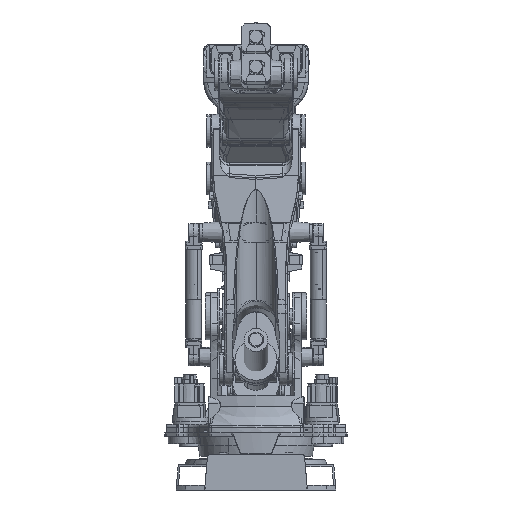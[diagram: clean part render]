
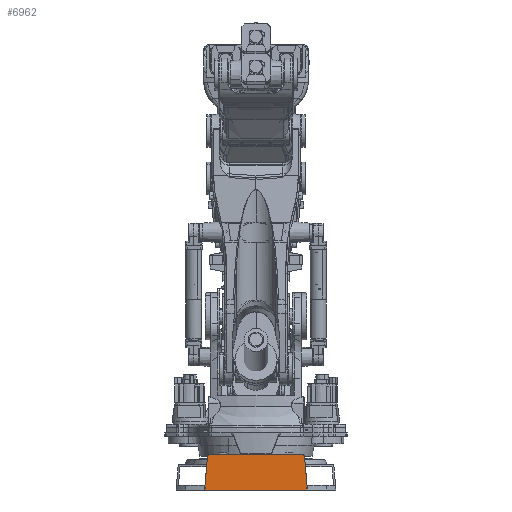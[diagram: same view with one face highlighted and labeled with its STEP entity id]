
A CAD part, front view. The second image highlights one B-rep face of the part: STEP entity #6962.
In plain terms, the highlighted planar face has unit normal (0, -1, 0).
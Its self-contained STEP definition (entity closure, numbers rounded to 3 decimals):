
#6700=CARTESIAN_POINT('Vertex',(366.836,-734.3,242.615)) ;
#6717=CARTESIAN_POINT('Vertex',(336.95,-734.3,270.)) ;
#6721=CARTESIAN_POINT('Control Point',(336.95,-734.3,270.)) ;
#6722=CARTESIAN_POINT('Control Point',(345.851,-734.3,270.)) ;
#6723=CARTESIAN_POINT('Control Point',(354.759,-734.3,266.707)) ;
#6724=CARTESIAN_POINT('Control Point',(362.003,-734.3,260.068)) ;
#6725=CARTESIAN_POINT('Control Point',(366.06,-734.3,251.482)) ;
#6726=CARTESIAN_POINT('Control Point',(366.836,-734.3,242.615)) ;
#6746=CARTESIAN_POINT('Vertex',(385.,-734.3,35.)) ;
#6754=CARTESIAN_POINT('Line Origine',(375.918,-734.3,138.807)) ;
#6865=CARTESIAN_POINT('Vertex',(-336.95,-734.3,270.)) ;
#6868=CARTESIAN_POINT('Line Origine',(0.,-734.3,270.)) ;
#6880=CARTESIAN_POINT('Axis2P3D Location',(0.,-734.3,0.)) ;
#6886=CARTESIAN_POINT('Control Point',(-366.836,-734.3,242.615)) ;
#6887=CARTESIAN_POINT('Control Point',(-366.579,-734.3,245.554)) ;
#6888=CARTESIAN_POINT('Control Point',(-365.961,-734.3,248.463)) ;
#6889=CARTESIAN_POINT('Control Point',(-364.986,-734.3,251.28)) ;
#6890=CARTESIAN_POINT('Control Point',(-362.362,-734.3,256.617)) ;
#6891=CARTESIAN_POINT('Control Point',(-358.523,-734.3,261.16)) ;
#6892=CARTESIAN_POINT('Control Point',(-356.332,-734.3,263.184)) ;
#6893=CARTESIAN_POINT('Control Point',(-351.499,-734.3,266.65)) ;
#6894=CARTESIAN_POINT('Control Point',(-345.97,-734.3,268.842)) ;
#6895=CARTESIAN_POINT('Control Point',(-343.085,-734.3,269.591)) ;
#6896=CARTESIAN_POINT('Control Point',(-340.089,-734.3,269.982)) ;
#6897=CARTESIAN_POINT('Control Point',(-337.092,-734.3,270.)) ;
#6898=CARTESIAN_POINT('Control Point',(-337.044,-734.3,270.)) ;
#6899=CARTESIAN_POINT('Control Point',(-336.997,-734.3,270.)) ;
#6900=CARTESIAN_POINT('Control Point',(-336.95,-734.3,270.)) ;
#6901=CARTESIAN_POINT('Vertex',(-366.836,-734.3,242.615)) ;
#6904=CARTESIAN_POINT('Line Origine',(-375.918,-734.3,138.807)) ;
#6908=CARTESIAN_POINT('Vertex',(-385.,-734.3,35.)) ;
#6911=CARTESIAN_POINT('Line Origine',(-384.832,-734.3,35.)) ;
#6915=CARTESIAN_POINT('Vertex',(-384.664,-734.3,35.)) ;
#6919=CARTESIAN_POINT('Control Point',(-384.567,-734.3,0.)) ;
#6920=CARTESIAN_POINT('Control Point',(-384.893,-734.3,6.995)) ;
#6921=CARTESIAN_POINT('Control Point',(-385.065,-734.3,13.996)) ;
#6922=CARTESIAN_POINT('Control Point',(-385.085,-734.3,21.001)) ;
#6923=CARTESIAN_POINT('Control Point',(-384.951,-734.3,28.004)) ;
#6924=CARTESIAN_POINT('Control Point',(-384.664,-734.3,35.)) ;
#6925=CARTESIAN_POINT('Vertex',(-384.567,-734.3,0.)) ;
#6928=CARTESIAN_POINT('Line Origine',(0.,-734.3,0.)) ;
#6932=CARTESIAN_POINT('Vertex',(384.567,-734.3,0.)) ;
#6936=CARTESIAN_POINT('Control Point',(384.664,-734.3,35.)) ;
#6937=CARTESIAN_POINT('Control Point',(384.951,-734.3,28.004)) ;
#6938=CARTESIAN_POINT('Control Point',(385.085,-734.3,21.001)) ;
#6939=CARTESIAN_POINT('Control Point',(385.065,-734.3,13.996)) ;
#6940=CARTESIAN_POINT('Control Point',(384.893,-734.3,6.995)) ;
#6941=CARTESIAN_POINT('Control Point',(384.567,-734.3,0.)) ;
#6942=CARTESIAN_POINT('Vertex',(384.664,-734.3,35.)) ;
#6945=CARTESIAN_POINT('Line Origine',(384.832,-734.3,35.)) ;
#6755=DIRECTION('Vector Direction',(0.087,0.,-0.996)) ;
#6869=DIRECTION('Vector Direction',(1.,0.,0.)) ;
#6881=DIRECTION('Axis2P3D Direction',(0.,-1.,0.)) ;
#6882=DIRECTION('Axis2P3D XDirection',(1.,0.,0.)) ;
#6905=DIRECTION('Vector Direction',(0.087,0.,0.996)) ;
#6912=DIRECTION('Vector Direction',(-1.,0.,0.)) ;
#6929=DIRECTION('Vector Direction',(-1.,0.,0.)) ;
#6946=DIRECTION('Vector Direction',(-1.,0.,0.)) ;
#6883=AXIS2_PLACEMENT_3D('Plane Axis2P3D',#6880,#6881,#6882) ;
#6951=ORIENTED_EDGE('',*,*,#6727,.T.) ;
#6952=ORIENTED_EDGE('',*,*,#6872,.T.) ;
#6953=ORIENTED_EDGE('',*,*,#6903,.T.) ;
#6954=ORIENTED_EDGE('',*,*,#6910,.T.) ;
#6955=ORIENTED_EDGE('',*,*,#6917,.T.) ;
#6956=ORIENTED_EDGE('',*,*,#6927,.T.) ;
#6957=ORIENTED_EDGE('',*,*,#6934,.T.) ;
#6958=ORIENTED_EDGE('',*,*,#6944,.T.) ;
#6959=ORIENTED_EDGE('',*,*,#6949,.T.) ;
#6960=ORIENTED_EDGE('',*,*,#6758,.T.) ;
#6756=VECTOR('Line Direction',#6755,1.) ;
#6870=VECTOR('Line Direction',#6869,1.) ;
#6906=VECTOR('Line Direction',#6905,1.) ;
#6913=VECTOR('Line Direction',#6912,1.) ;
#6930=VECTOR('Line Direction',#6929,1.) ;
#6947=VECTOR('Line Direction',#6946,1.) ;
#6962=ADVANCED_FACE('\X2\FF8EFF9EFF83FF9EFF68FF70\X0\.9',(#6961),#6884,.T.) ;
#6720=B_SPLINE_CURVE_WITH_KNOTS('',5,(#6721,#6722,#6723,#6724,#6725,#6726),.UNSPECIFIED.,.F.,.U.,(6,6),(0.,46.621),.UNSPECIFIED.) ;
#6885=B_SPLINE_CURVE_WITH_KNOTS('',5,(#6886,#6887,#6888,#6889,#6890,#6891,#6892,#6893,#6894,#6895,#6896,#6897,#6898,#6899,#6900),.UNSPECIFIED.,.F.,.U.,(6,3,3,3,6),(0.,21.367,42.745,64.112,64.453),.UNSPECIFIED.) ;
#6918=B_SPLINE_CURVE_WITH_KNOTS('',5,(#6919,#6920,#6921,#6922,#6923,#6924),.UNSPECIFIED.,.F.,.U.,(6,6),(0.,49.517),.UNSPECIFIED.) ;
#6935=B_SPLINE_CURVE_WITH_KNOTS('',5,(#6936,#6937,#6938,#6939,#6940,#6941),.UNSPECIFIED.,.F.,.U.,(6,6),(0.,49.517),.UNSPECIFIED.) ;
#6727=EDGE_CURVE('',#6701,#6718,#6720,.F.) ;
#6758=EDGE_CURVE('',#6747,#6701,#6757,.F.) ;
#6872=EDGE_CURVE('',#6718,#6866,#6871,.F.) ;
#6903=EDGE_CURVE('',#6866,#6902,#6885,.F.) ;
#6910=EDGE_CURVE('',#6902,#6909,#6907,.F.) ;
#6917=EDGE_CURVE('',#6909,#6916,#6914,.F.) ;
#6927=EDGE_CURVE('',#6916,#6926,#6918,.F.) ;
#6934=EDGE_CURVE('',#6926,#6933,#6931,.F.) ;
#6944=EDGE_CURVE('',#6933,#6943,#6935,.F.) ;
#6949=EDGE_CURVE('',#6943,#6747,#6948,.F.) ;
#6950=EDGE_LOOP('',(#6951,#6952,#6953,#6954,#6955,#6956,#6957,#6958,#6959,#6960)) ;
#6961=FACE_OUTER_BOUND('',#6950,.T.) ;
#6757=LINE('Line',#6754,#6756) ;
#6871=LINE('Line',#6868,#6870) ;
#6907=LINE('Line',#6904,#6906) ;
#6914=LINE('Line',#6911,#6913) ;
#6931=LINE('Line',#6928,#6930) ;
#6948=LINE('Line',#6945,#6947) ;
#6884=PLANE('',#6883) ;
#6701=VERTEX_POINT('',#6700) ;
#6718=VERTEX_POINT('',#6717) ;
#6747=VERTEX_POINT('',#6746) ;
#6866=VERTEX_POINT('',#6865) ;
#6902=VERTEX_POINT('',#6901) ;
#6909=VERTEX_POINT('',#6908) ;
#6916=VERTEX_POINT('',#6915) ;
#6926=VERTEX_POINT('',#6925) ;
#6933=VERTEX_POINT('',#6932) ;
#6943=VERTEX_POINT('',#6942) ;
